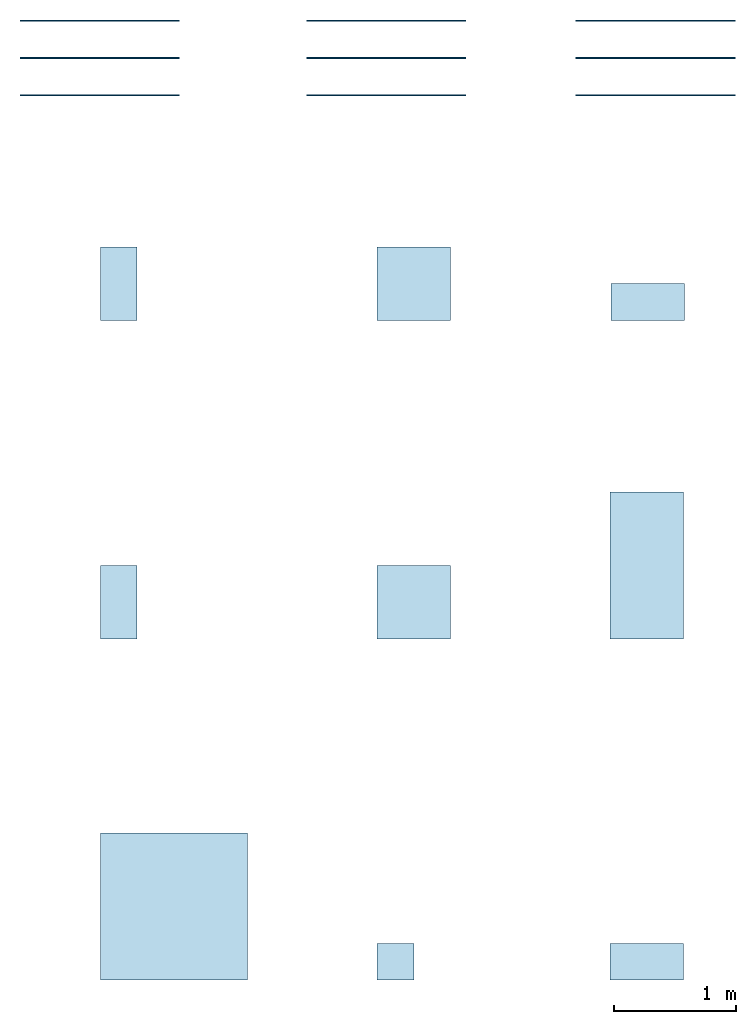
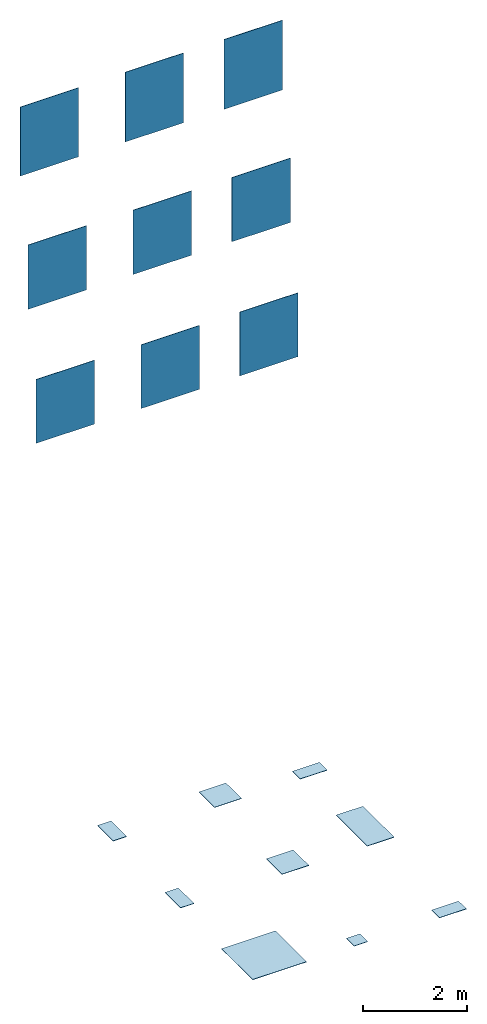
# One storey: 9 slabs, 9 walls.
"""IFC2X3 building model written with IfcOpenShell, lengths in millimetres."""

from ifc_helpers import new_model, entity, si_unit, converted_unit, derived_unit, direction, frame, frame_2d, origin, origin_2d_with_axis, place, context, subcontext, project, spatial, rectangle, extrude, material, layer, layer_set, layer_usage, type_object, element, save


model = new_model("IFC2X3")

# Units and contexts
model_context = context("Model", 3, precision=0.01, world=origin(), true_north=direction((6.12303176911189e-17, 1.0)))
body_context = subcontext(model_context, "Body", "Model", "MODEL_VIEW")
ifc_project = project(units=[si_unit("LENGTHUNIT", "METRE", prefix="MILLI"), si_unit("AREAUNIT", "SQUARE_METRE"), si_unit("VOLUMEUNIT", "CUBIC_METRE"), converted_unit("PLANEANGLEUNIT", "DEGREE", entity("IfcRatioMeasure", 0.0174532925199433), si_unit("PLANEANGLEUNIT", "RADIAN"), dimensions=[0, 0, 0, 0, 0, 0, 0]), si_unit("MASSUNIT", "GRAM", prefix="KILO"), derived_unit("MASSDENSITYUNIT", [(si_unit("MASSUNIT", "GRAM", prefix="KILO"), 1), (si_unit("LENGTHUNIT", "METRE"), -3)]), derived_unit("MOMENTOFINERTIAUNIT", [(si_unit("LENGTHUNIT", "METRE"), 4)]), si_unit("TIMEUNIT", "SECOND"), si_unit("FREQUENCYUNIT", "HERTZ"), si_unit("THERMODYNAMICTEMPERATUREUNIT", "DEGREE_CELSIUS"), derived_unit("THERMALTRANSMITTANCEUNIT", [(si_unit("MASSUNIT", "GRAM", prefix="KILO"), 1), (si_unit("THERMODYNAMICTEMPERATUREUNIT", "KELVIN"), -1), (si_unit("TIMEUNIT", "SECOND"), -3)]), derived_unit("VOLUMETRICFLOWRATEUNIT", [(si_unit("LENGTHUNIT", "METRE"), 3), (si_unit("TIMEUNIT", "SECOND"), -1)]), si_unit("ELECTRICCURRENTUNIT", "AMPERE"), si_unit("ELECTRICVOLTAGEUNIT", "VOLT"), si_unit("POWERUNIT", "WATT"), si_unit("FORCEUNIT", "NEWTON", prefix="KILO"), si_unit("ILLUMINANCEUNIT", "LUX"), si_unit("LUMINOUSFLUXUNIT", "LUMEN"), si_unit("LUMINOUSINTENSITYUNIT", "CANDELA"), derived_unit("USERDEFINED", [(si_unit("MASSUNIT", "GRAM", prefix="KILO"), -1), (si_unit("LENGTHUNIT", "METRE"), -2), (si_unit("TIMEUNIT", "SECOND"), 3), (si_unit("LUMINOUSFLUXUNIT", "LUMEN"), 1)]), derived_unit("LINEARVELOCITYUNIT", [(si_unit("LENGTHUNIT", "METRE"), 1), (si_unit("TIMEUNIT", "SECOND"), -1)]), si_unit("PRESSUREUNIT", "PASCAL"), derived_unit("USERDEFINED", [(si_unit("LENGTHUNIT", "METRE"), -2), (si_unit("MASSUNIT", "GRAM", prefix="KILO"), 1), (si_unit("TIMEUNIT", "SECOND"), -2)]), derived_unit("LINEARFORCEUNIT", [(si_unit("MASSUNIT", "GRAM", prefix="KILO"), 1), (si_unit("LENGTHUNIT", "METRE"), 1), (si_unit("TIMEUNIT", "SECOND"), -2), (si_unit("LENGTHUNIT", "METRE"), -1)]), derived_unit("PLANARFORCEUNIT", [(si_unit("MASSUNIT", "GRAM", prefix="KILO"), 1), (si_unit("LENGTHUNIT", "METRE"), 1), (si_unit("TIMEUNIT", "SECOND"), -2), (si_unit("LENGTHUNIT", "METRE"), -2)])], contexts=[model_context])

# Site, building, storey
site_placement = place(None, origin())
site = spatial("IfcSite", under=ifc_project, at=site_placement, Name="Default", CompositionType="ELEMENT")
building_placement = place(site_placement, origin())
building = spatial("IfcBuilding", under=site, at=building_placement, CompositionType="ELEMENT")
storey_placement = place(building_placement, origin())
storey = spatial("IfcBuildingStorey", under=building, at=storey_placement, Name="Level 0", CompositionType="ELEMENT", Elevation=0.0)

# Slabs
ifc_material_1 = material(Name="Tune-Snow-Muretto-3D-30x60 MK50")
ifc_layer_1 = layer(ifc_material_1, 10.0)
ifc_material_2 = material(Name="<Unnamed>")
ifc_layer_2 = layer(ifc_material_2, 1.0)
ifc_layer_set_1 = layer_set([ifc_layer_1, ifc_layer_2], Name="Floor:Floor_Tiles_Refin-Tune-Snow-Muretto-3D-30x60 MK50")
ifc_layer_usage_1 = layer_usage(ifc_layer_set_1, "AXIS3", "POSITIVE", 0.0)
slab_type_1 = type_object("IfcSlabType", Name="Floor:Floor_Tiles_Refin-Tune-Snow-Muretto-3D-30x60 MK50", PredefinedType="FLOOR", material=ifc_layer_set_1)
slab_1_placement = place(storey_placement, origin())
element("IfcSlab", 1, at=slab_1_placement, inside=storey, type_object=slab_type_1, material=ifc_layer_usage_1, Name="Floor:Floor_Tiles_Refin-Tune-Snow-Muretto-3D-30x60 MK50", ObjectType="Floor:Floor_Tiles_Refin-Tune-Snow-Muretto-3D-30x60 MK50", PredefinedType="FLOOR", context=body_context, shape_type="SweptSolid", body=[
    extrude(rectangle(XDim=299.999999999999, YDim=600.0, at=frame_2d((0.0, 1.08002495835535e-12), x_axis=(1.0, 0.0))), frame((11043.9626790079, 5839.46237428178, 0.0), z_axis=(0.0, 0.0, -1.0), x_axis=(0.0, 1.0, 0.0)), (0.0, 0.0, 1.0), 11.0),
])
ifc_material_3 = material(Name="Tune-Snow-30x60 NB11")
ifc_layer_3 = layer(ifc_material_3, 9.0)
ifc_layer_4 = layer(ifc_material_2, 1.0)
ifc_layer_set_2 = layer_set([ifc_layer_3, ifc_layer_4], Name="Floor:Floor_Tiles_Refin-Tune-Snow-30x60 NB11")
ifc_layer_usage_2 = layer_usage(ifc_layer_set_2, "AXIS3", "POSITIVE", 0.0)
slab_type_2 = type_object("IfcSlabType", Name="Floor:Floor_Tiles_Refin-Tune-Snow-30x60 NB11", PredefinedType="FLOOR", material=ifc_layer_set_2)
slab_2_placement = place(storey_placement, origin())
element("IfcSlab", 2, at=slab_2_placement, inside=storey, type_object=slab_type_2, material=ifc_layer_usage_2, Name="Floor:Floor_Tiles_Refin-Tune-Snow-30x60 NB11", ObjectType="Floor:Floor_Tiles_Refin-Tune-Snow-30x60 NB11", PredefinedType="FLOOR", context=body_context, shape_type="SweptSolid", body=[
    extrude(rectangle(XDim=600.0, YDim=300.0, at=frame_2d((0.0, 5.40012479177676e-13), x_axis=(1.0, 0.0))), frame((6724.37520617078, 5989.4623742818, 0.0), z_axis=(0.0, 0.0, -1.0), x_axis=(0.0, 1.0, 0.0)), (0.0, 0.0, 1.0), 10.0),
])
ifc_material_4 = material(Name="Tune-Snow-60x60 NB23")
ifc_layer_5 = layer(ifc_material_4, 9.0)
ifc_layer_6 = layer(ifc_material_2, 1.0)
ifc_layer_set_3 = layer_set([ifc_layer_5, ifc_layer_6], Name="Floor:Floor_Tiles_Refin-Tune-Snow-60x60 NB23")
ifc_layer_usage_3 = layer_usage(ifc_layer_set_3, "AXIS3", "POSITIVE", 0.0)
slab_type_3 = type_object("IfcSlabType", Name="Floor:Floor_Tiles_Refin-Tune-Snow-60x60 NB23", PredefinedType="FLOOR", material=ifc_layer_set_3)
slab_3_placement = place(storey_placement, origin())
element("IfcSlab", 3, at=slab_3_placement, inside=storey, type_object=slab_type_3, material=ifc_layer_usage_3, Name="Floor:Floor_Tiles_Refin-Tune-Snow-60x60 NB23", ObjectType="Floor:Floor_Tiles_Refin-Tune-Snow-60x60 NB23", PredefinedType="FLOOR", context=body_context, shape_type="SweptSolid", body=[
    extrude(rectangle(XDim=600.0, YDim=600.0, at=origin_2d_with_axis()), frame((9134.16894258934, 5988.41920639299, 0.0), z_axis=(0.0, 0.0, -1.0), x_axis=(0.0, 1.0, 0.0)), (0.0, 0.0, 1.0), 10.0),
])
ifc_material_5 = material(Name="Tune-Snow-Soft-60x120 NA90")
ifc_layer_7 = layer(ifc_material_5, 9.0)
ifc_layer_8 = layer(ifc_material_2, 1.0)
ifc_layer_set_4 = layer_set([ifc_layer_7, ifc_layer_8], Name="Floor:Floor_Tiles_Refin-Tune-Snow-Soft-60x120 NA90")
ifc_layer_usage_4 = layer_usage(ifc_layer_set_4, "AXIS3", "POSITIVE", 0.0)
slab_type_4 = type_object("IfcSlabType", Name="Floor:Floor_Tiles_Refin-Tune-Snow-Soft-60x120 NA90", PredefinedType="FLOOR", material=ifc_layer_set_4)
slab_4_placement = place(storey_placement, origin())
element("IfcSlab", 4, at=slab_4_placement, inside=storey, type_object=slab_type_4, material=ifc_layer_usage_4, Name="Floor:Floor_Tiles_Refin-Tune-Snow-Soft-60x120 NA90", ObjectType="Floor:Floor_Tiles_Refin-Tune-Snow-Soft-60x120 NA90", PredefinedType="FLOOR", context=body_context, shape_type="SweptSolid", body=[
    extrude(rectangle(XDim=1200.0, YDim=600.0, at=frame_2d((0.0, 1.08002495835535e-12), x_axis=(1.0, 0.0))), frame((11034.1689425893, 3689.46237428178, 0.0), z_axis=(0.0, 0.0, -1.0), x_axis=(0.0, 1.0, 0.0)), (0.0, 0.0, 1.0), 10.0),
])
ifc_material_6 = material(Name="Tune-Snow-Soft-30x60 NB12")
ifc_layer_9 = layer(ifc_material_6, 9.0)
ifc_layer_10 = layer(ifc_material_2, 1.0)
ifc_layer_set_5 = layer_set([ifc_layer_9, ifc_layer_10], Name="Floor:Floor_Tiles_Refin-Tune-Snow-Soft-30x60 NB12")
ifc_layer_usage_5 = layer_usage(ifc_layer_set_5, "AXIS3", "POSITIVE", 0.0)
slab_type_5 = type_object("IfcSlabType", Name="Floor:Floor_Tiles_Refin-Tune-Snow-Soft-30x60 NB12", PredefinedType="FLOOR", material=ifc_layer_set_5)
slab_5_placement = place(storey_placement, origin())
element("IfcSlab", 5, at=slab_5_placement, inside=storey, type_object=slab_type_5, material=ifc_layer_usage_5, Name="Floor:Floor_Tiles_Refin-Tune-Snow-Soft-30x60 NB12", ObjectType="Floor:Floor_Tiles_Refin-Tune-Snow-Soft-30x60 NB12", PredefinedType="FLOOR", context=body_context, shape_type="SweptSolid", body=[
    extrude(rectangle(XDim=600.0, YDim=300.000000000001, at=origin_2d_with_axis()), frame((6724.37520617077, 3389.46237428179, 0.0), z_axis=(0.0, 0.0, -1.0), x_axis=(0.0, 1.0, 0.0)), (0.0, 0.0, 1.0), 10.0),
])
ifc_material_7 = material(Name="Tune-Snow-Mosaico-Soft-30x30 NA44")
ifc_layer_11 = layer(ifc_material_7, 9.0)
ifc_layer_12 = layer(ifc_material_2, 1.0)
ifc_layer_set_6 = layer_set([ifc_layer_11, ifc_layer_12], Name="Floor:Floor_Tiles_Refin-Tune-Snow-Mosaico-Soft-30x30 NA44")
ifc_layer_usage_6 = layer_usage(ifc_layer_set_6, "AXIS3", "POSITIVE", 0.0)
slab_type_6 = type_object("IfcSlabType", Name="Floor:Floor_Tiles_Refin-Tune-Snow-Mosaico-Soft-30x30 NA44", PredefinedType="FLOOR", material=ifc_layer_set_6)
slab_6_placement = place(storey_placement, origin())
element("IfcSlab", 6, at=slab_6_placement, inside=storey, type_object=slab_type_6, material=ifc_layer_usage_6, Name="Floor:Floor_Tiles_Refin-Tune-Snow-Mosaico-Soft-30x30 NA44", ObjectType="Floor:Floor_Tiles_Refin-Tune-Snow-Mosaico-Soft-30x30 NA44", PredefinedType="FLOOR", context=body_context, shape_type="SweptSolid", body=[
    extrude(rectangle(XDim=300.0, YDim=300.000000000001, at=origin_2d_with_axis()), frame((8984.16894258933, 453.436723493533, 0.0), z_axis=(0.0, 0.0, -1.0), x_axis=(0.0, 1.0, 0.0)), (0.0, 0.0, 1.0), 10.0),
])
ifc_material_8 = material(Name="Tune-Snow-Soft-60x60 NB24")
ifc_layer_13 = layer(ifc_material_8, 9.0)
ifc_layer_14 = layer(ifc_material_2, 1.0)
ifc_layer_set_7 = layer_set([ifc_layer_13, ifc_layer_14], Name="Floor:Floor_Tiles_Refin-Tune-Snow-Soft-60x60 NB24")
ifc_layer_usage_7 = layer_usage(ifc_layer_set_7, "AXIS3", "POSITIVE", 0.0)
slab_type_7 = type_object("IfcSlabType", Name="Floor:Floor_Tiles_Refin-Tune-Snow-Soft-60x60 NB24", PredefinedType="FLOOR", material=ifc_layer_set_7)
slab_7_placement = place(storey_placement, origin())
element("IfcSlab", 7, at=slab_7_placement, inside=storey, type_object=slab_type_7, material=ifc_layer_usage_7, Name="Floor:Floor_Tiles_Refin-Tune-Snow-Soft-60x60 NB24", ObjectType="Floor:Floor_Tiles_Refin-Tune-Snow-Soft-60x60 NB24", PredefinedType="FLOOR", context=body_context, shape_type="SweptSolid", body=[
    extrude(rectangle(XDim=600.0, YDim=600.0, at=origin_2d_with_axis()), frame((9134.16894258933, 3389.46237428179, 0.0), z_axis=(0.0, 0.0, -1.0), x_axis=(0.0, 1.0, 0.0)), (0.0, 0.0, 1.0), 10.0),
])
ifc_material_9 = material(Name="Tune-Snow-Soft-120x120 MK17")
ifc_layer_15 = layer(ifc_material_9, 9.0)
ifc_layer_16 = layer(ifc_material_2, 1.0)
ifc_layer_set_8 = layer_set([ifc_layer_15, ifc_layer_16], Name="Floor:Floor_Tiles_Refin-Tune-Snow-Soft-120x120 MK17")
ifc_layer_usage_8 = layer_usage(ifc_layer_set_8, "AXIS3", "POSITIVE", 0.0)
slab_type_8 = type_object("IfcSlabType", Name="Floor:Floor_Tiles_Refin-Tune-Snow-Soft-120x120 MK17", PredefinedType="FLOOR", material=ifc_layer_set_8)
slab_8_placement = place(storey_placement, origin())
element("IfcSlab", 8, at=slab_8_placement, inside=storey, type_object=slab_type_8, material=ifc_layer_usage_8, Name="Floor:Floor_Tiles_Refin-Tune-Snow-Soft-120x120 MK17", ObjectType="Floor:Floor_Tiles_Refin-Tune-Snow-Soft-120x120 MK17", PredefinedType="FLOOR", context=body_context, shape_type="SweptSolid", body=[
    extrude(rectangle(XDim=1200.0, YDim=1200.0, at=origin_2d_with_axis()), frame((7174.37520617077, 903.43672349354, 0.0), z_axis=(0.0, 0.0, -1.0), x_axis=(0.0, 1.0, 0.0)), (0.0, 0.0, 1.0), 10.0),
])
ifc_material_10 = material(Name="Tune-Snow-Mosaico-Linea-Soft-30x60 NA23")
ifc_layer_17 = layer(ifc_material_10, 9.0)
ifc_layer_18 = layer(ifc_material_2, 1.0)
ifc_layer_set_9 = layer_set([ifc_layer_17, ifc_layer_18], Name="Floor:Floor_Tiles_Refin-Tune-Snow-Mosaico-Linea-Soft-30x60 NA23")
ifc_layer_usage_9 = layer_usage(ifc_layer_set_9, "AXIS3", "POSITIVE", 0.0)
slab_type_9 = type_object("IfcSlabType", Name="Floor:Floor_Tiles_Refin-Tune-Snow-Mosaico-Linea-Soft-30x60 NA23", PredefinedType="FLOOR", material=ifc_layer_set_9)
slab_9_placement = place(storey_placement, origin())
element("IfcSlab", 9, at=slab_9_placement, inside=storey, type_object=slab_type_9, material=ifc_layer_usage_9, Name="Floor:Floor_Tiles_Refin-Tune-Snow-Mosaico-Linea-Soft-30x60 NA23", ObjectType="Floor:Floor_Tiles_Refin-Tune-Snow-Mosaico-Linea-Soft-30x60 NA23", PredefinedType="FLOOR", context=body_context, shape_type="SweptSolid", body=[
    extrude(rectangle(XDim=300.0, YDim=600.0, at=frame_2d((0.0, 1.08002495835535e-12), x_axis=(1.0, 0.0))), frame((11034.1689425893, 453.436723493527, 0.0), z_axis=(0.0, 0.0, -1.0), x_axis=(0.0, 1.0, 0.0)), (0.0, 0.0, 1.0), 10.0),
])

# Walls
ifc_layer_19 = layer(ifc_material_2, 1.0)
ifc_layer_20 = layer(ifc_material_4, 9.0)
ifc_layer_set_10 = layer_set([ifc_layer_19, ifc_layer_20], Name="Basic Wall:Wall_Tiles_Refin-Tune-Snow-60x60 NB23")
ifc_layer_usage_10 = layer_usage(ifc_layer_set_10, "AXIS2", "NEGATIVE", 5.0)
wall_type_1 = type_object("IfcWallType", Name="Basic Wall:Wall_Tiles_Refin-Tune-Snow-60x60 NB23", PredefinedType="STANDARD", material=ifc_layer_set_10)
wall_1_placement = place(storey_placement, frame((8257.37520617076, 8137.38386313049, 14387.6770443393)))
element("IfcWallStandardCase", 10, at=wall_1_placement, inside=storey, type_object=wall_type_1, material=ifc_layer_usage_10, Name="Basic Wall:Wall_Tiles_Refin-Tune-Snow-60x60 NB23", ObjectType="Basic Wall:Wall_Tiles_Refin-Tune-Snow-60x60 NB23", context=body_context, shape_type="SweptSolid", body=[
    extrude(rectangle(XDim=1300.0, YDim=9.99999999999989, at=frame_2d((650.0, 7.63833440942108e-14), x_axis=(-1.0, 0.0))), origin(), (0.0, 0.0, 1.0), 1641.74173522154),
])
ifc_layer_21 = layer(ifc_material_2, 1.0)
ifc_layer_22 = layer(ifc_material_1, 10.0)
ifc_layer_set_11 = layer_set([ifc_layer_21, ifc_layer_22], Name="Basic Wall:Wall_Tiles_Refin-Tune-Snow-Muretto-3D-30x60 MK50")
ifc_layer_usage_11 = layer_usage(ifc_layer_set_11, "AXIS2", "NEGATIVE", 5.5)
wall_type_2 = type_object("IfcWallType", Name="Basic Wall:Wall_Tiles_Refin-Tune-Snow-Muretto-3D-30x60 MK50", PredefinedType="STANDARD", material=ifc_layer_set_11)
wall_2_placement = place(storey_placement, frame((10457.3752061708, 8137.38386313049, 14387.6770443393)))
element("IfcWallStandardCase", 11, at=wall_2_placement, inside=storey, type_object=wall_type_2, material=ifc_layer_usage_11, Name="Basic Wall:Wall_Tiles_Refin-Tune-Snow-Muretto-3D-30x60 MK50", ObjectType="Basic Wall:Wall_Tiles_Refin-Tune-Snow-Muretto-3D-30x60 MK50", context=body_context, shape_type="SweptSolid", body=[
    extrude(rectangle(XDim=1300.0, YDim=10.9999999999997, at=frame_2d((650.0, 7.63833440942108e-14), x_axis=(-1.0, 0.0))), origin(), (0.0, 0.0, 1.0), 1641.74173522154),
])
ifc_layer_23 = layer(ifc_material_2, 1.0)
ifc_layer_24 = layer(ifc_material_3, 9.0)
ifc_layer_set_12 = layer_set([ifc_layer_23, ifc_layer_24], Name="Basic Wall:Wall_Tiles_Refin-Tune-Snow-30x60 NB11")
ifc_layer_usage_12 = layer_usage(ifc_layer_set_12, "AXIS2", "NEGATIVE", 5.0)
wall_type_3 = type_object("IfcWallType", Name="Basic Wall:Wall_Tiles_Refin-Tune-Snow-30x60 NB11", PredefinedType="STANDARD", material=ifc_layer_set_12)
wall_3_placement = place(storey_placement, frame((5917.37520617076, 8137.38386313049, 14403.726734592)))
element("IfcWallStandardCase", 12, at=wall_3_placement, inside=storey, type_object=wall_type_3, material=ifc_layer_usage_12, Name="Basic Wall:Wall_Tiles_Refin-Tune-Snow-30x60 NB11", ObjectType="Basic Wall:Wall_Tiles_Refin-Tune-Snow-30x60 NB11", context=body_context, shape_type="SweptSolid", body=[
    extrude(rectangle(XDim=1300.0, YDim=9.99999999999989, at=frame_2d((650.0, 7.63833440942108e-14), x_axis=(-1.0, 0.0))), origin(), (0.0, 0.0, 1.0), 1625.69204496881),
])
ifc_layer_25 = layer(ifc_material_2, 1.0)
ifc_layer_26 = layer(ifc_material_6, 9.0)
ifc_layer_set_13 = layer_set([ifc_layer_25, ifc_layer_26], Name="Basic Wall:Wall_Tiles_Refin-Tune-Snow-Soft-30x60 NB12")
ifc_layer_usage_13 = layer_usage(ifc_layer_set_13, "AXIS2", "NEGATIVE", 5.0)
wall_type_4 = type_object("IfcWallType", Name="Basic Wall:Wall_Tiles_Refin-Tune-Snow-Soft-30x60 NB12", PredefinedType="STANDARD", material=ifc_layer_set_13)
wall_4_placement = place(storey_placement, frame((5917.37520617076, 7832.38386313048, 11452.5436262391)))
element("IfcWallStandardCase", 13, at=wall_4_placement, inside=storey, type_object=wall_type_4, material=ifc_layer_usage_13, Name="Basic Wall:Wall_Tiles_Refin-Tune-Snow-Soft-30x60 NB12", ObjectType="Basic Wall:Wall_Tiles_Refin-Tune-Snow-Soft-30x60 NB12", context=body_context, shape_type="SweptSolid", body=[
    extrude(rectangle(XDim=1300.0, YDim=9.99999999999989, at=frame_2d((650.0, 0.0), x_axis=(-1.0, 0.0))), origin(), (0.0, 0.0, 1.0), 1513.19855655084),
])
ifc_layer_27 = layer(ifc_material_2, 1.0)
ifc_layer_28 = layer(ifc_material_8, 9.0)
ifc_layer_set_14 = layer_set([ifc_layer_27, ifc_layer_28], Name="Basic Wall:Wall_Tiles_Refin-Tune-Snow-Soft-60x60 NB24")
ifc_layer_usage_14 = layer_usage(ifc_layer_set_14, "AXIS2", "NEGATIVE", 5.0)
wall_type_5 = type_object("IfcWallType", Name="Basic Wall:Wall_Tiles_Refin-Tune-Snow-Soft-60x60 NB24", PredefinedType="STANDARD", material=ifc_layer_set_14)
wall_5_placement = place(storey_placement, frame((8257.37520617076, 7832.38386313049, 11452.5436262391)))
element("IfcWallStandardCase", 14, at=wall_5_placement, inside=storey, type_object=wall_type_5, material=ifc_layer_usage_14, Name="Basic Wall:Wall_Tiles_Refin-Tune-Snow-Soft-60x60 NB24", ObjectType="Basic Wall:Wall_Tiles_Refin-Tune-Snow-Soft-60x60 NB24", context=body_context, shape_type="SweptSolid", body=[
    extrude(rectangle(XDim=1300.0, YDim=9.99999999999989, at=frame_2d((650.0, 0.0), x_axis=(-1.0, 0.0))), origin(), (0.0, 0.0, 1.0), 1513.19855655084),
])
ifc_layer_29 = layer(ifc_material_2, 1.0)
ifc_layer_30 = layer(ifc_material_5, 9.0)
ifc_layer_set_15 = layer_set([ifc_layer_29, ifc_layer_30], Name="Basic Wall:Wall_Tiles_Refin-Tune-Snow-Soft-60x120 NA90")
ifc_layer_usage_15 = layer_usage(ifc_layer_set_15, "AXIS2", "NEGATIVE", 5.0)
wall_type_6 = type_object("IfcWallType", Name="Basic Wall:Wall_Tiles_Refin-Tune-Snow-Soft-60x120 NA90", PredefinedType="STANDARD", material=ifc_layer_set_15)
wall_6_placement = place(storey_placement, frame((10457.3752061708, 7832.38386313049, 11452.5436262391)))
element("IfcWallStandardCase", 15, at=wall_6_placement, inside=storey, type_object=wall_type_6, material=ifc_layer_usage_15, Name="Basic Wall:Wall_Tiles_Refin-Tune-Snow-Soft-60x120 NA90", ObjectType="Basic Wall:Wall_Tiles_Refin-Tune-Snow-Soft-60x120 NA90", context=body_context, shape_type="SweptSolid", body=[
    extrude(rectangle(XDim=1300.0, YDim=9.99999999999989, at=frame_2d((650.000000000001, 0.0), x_axis=(-1.0, 0.0))), origin(), (0.0, 0.0, 1.0), 1513.19855655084),
])
ifc_layer_31 = layer(ifc_material_2, 1.0)
ifc_layer_32 = layer(ifc_material_9, 9.0)
ifc_layer_set_16 = layer_set([ifc_layer_31, ifc_layer_32], Name="Basic Wall:Wall_Tiles_Refin-Tune-Snow-Soft-120x120 MK17")
ifc_layer_usage_16 = layer_usage(ifc_layer_set_16, "AXIS2", "NEGATIVE", 5.0)
wall_type_7 = type_object("IfcWallType", Name="Basic Wall:Wall_Tiles_Refin-Tune-Snow-Soft-120x120 MK17", PredefinedType="STANDARD", material=ifc_layer_set_16)
wall_7_placement = place(storey_placement, frame((5917.37520617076, 7527.38386313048, 8479.10272143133)))
element("IfcWallStandardCase", 16, at=wall_7_placement, inside=storey, type_object=wall_type_7, material=ifc_layer_usage_16, Name="Basic Wall:Wall_Tiles_Refin-Tune-Snow-Soft-120x120 MK17", ObjectType="Basic Wall:Wall_Tiles_Refin-Tune-Snow-Soft-120x120 MK17", context=body_context, shape_type="SweptSolid", body=[
    extrude(rectangle(XDim=1300.0, YDim=9.99999999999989, at=frame_2d((650.0, 0.0), x_axis=(-1.0, 0.0))), origin(), (0.0, 0.0, 1.0), 1502.57401590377),
])
ifc_layer_33 = layer(ifc_material_2, 1.0)
ifc_layer_34 = layer(ifc_material_7, 9.0)
ifc_layer_set_17 = layer_set([ifc_layer_33, ifc_layer_34], Name="Basic Wall:Wall_Tiles_Refin-Tune-Snow-Mosaico-Soft-30x30 NA44")
ifc_layer_usage_17 = layer_usage(ifc_layer_set_17, "AXIS2", "NEGATIVE", 5.0)
wall_type_8 = type_object("IfcWallType", Name="Basic Wall:Wall_Tiles_Refin-Tune-Snow-Mosaico-Soft-30x30 NA44", PredefinedType="STANDARD", material=ifc_layer_set_17)
wall_8_placement = place(storey_placement, frame((8257.37520617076, 7527.38386313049, 8479.10272143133)))
element("IfcWallStandardCase", 17, at=wall_8_placement, inside=storey, type_object=wall_type_8, material=ifc_layer_usage_17, Name="Basic Wall:Wall_Tiles_Refin-Tune-Snow-Mosaico-Soft-30x30 NA44", ObjectType="Basic Wall:Wall_Tiles_Refin-Tune-Snow-Mosaico-Soft-30x30 NA44", context=body_context, shape_type="SweptSolid", body=[
    extrude(rectangle(XDim=1300.0, YDim=9.99999999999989, at=frame_2d((650.0, 0.0), x_axis=(-1.0, 0.0))), origin(), (0.0, 0.0, 1.0), 1502.57401590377),
])
ifc_layer_35 = layer(ifc_material_2, 1.0)
ifc_layer_36 = layer(ifc_material_10, 9.0)
ifc_layer_set_18 = layer_set([ifc_layer_35, ifc_layer_36], Name="Basic Wall:Wall_Tiles_Refin-Tune-Snow-Mosaico-Linea-Soft-30x60 NA23")
ifc_layer_usage_18 = layer_usage(ifc_layer_set_18, "AXIS2", "NEGATIVE", 5.0)
wall_type_9 = type_object("IfcWallType", Name="Basic Wall:Wall_Tiles_Refin-Tune-Snow-Mosaico-Linea-Soft-30x60 NA23", PredefinedType="STANDARD", material=ifc_layer_set_18)
wall_9_placement = place(storey_placement, frame((10457.3752061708, 7527.38386313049, 8479.10272143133)))
element("IfcWallStandardCase", 18, at=wall_9_placement, inside=storey, type_object=wall_type_9, material=ifc_layer_usage_18, Name="Basic Wall:Wall_Tiles_Refin-Tune-Snow-Mosaico-Linea-Soft-30x60 NA23", ObjectType="Basic Wall:Wall_Tiles_Refin-Tune-Snow-Mosaico-Linea-Soft-30x60 NA23", context=body_context, shape_type="SweptSolid", body=[
    extrude(rectangle(XDim=1300.0, YDim=9.99999999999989, at=frame_2d((650.000000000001, 0.0), x_axis=(-1.0, 0.0))), origin(), (0.0, 0.0, 1.0), 1502.57401590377),
])

save(model, "model.ifc")
